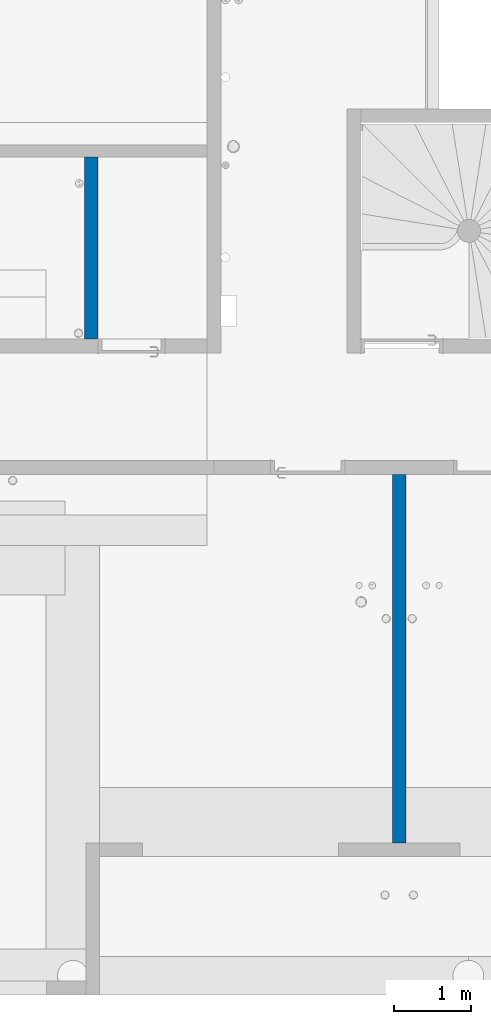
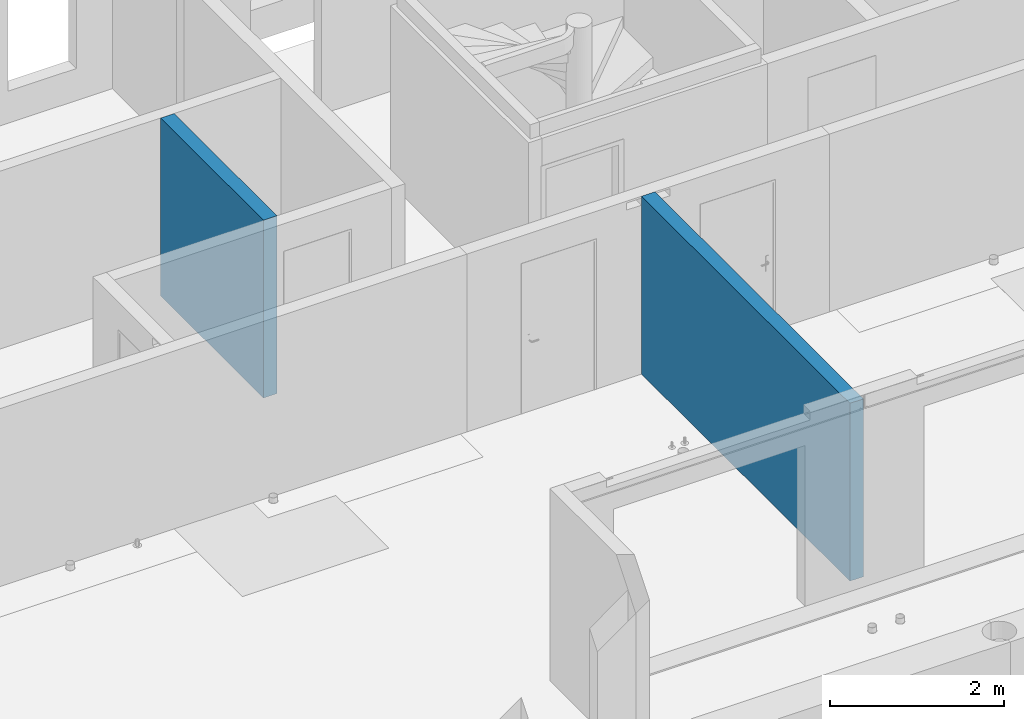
# One storey, part 9 of 34: 2 walls.
"""IFC2X3 building model written with IfcOpenShell, lengths in centimetres."""

import ifcopenshell
import ifcopenshell.guid

model = None  # the IFC model being written
_history = None  # IfcOwnerHistory: only IFC2X3 demands one
_inside = {}  # id of a spatial element -> (the spatial element, [elements in it])
_under = {}  # id of a project, library or spatial element -> (it, [spatial elements below it])
_declared = {}  # id of a project -> (the project, [libraries it declares])
_typed = {}  # id of a type object -> (the type object, [elements of that type])
_made_of = {}  # id of a material, layer set ... -> (it, [elements and type objects made of it])


def new_model(schema):
    """Start an empty IFC model of exactly this schema.

    Asked for "IFC4X3", IfcOpenShell would pick the latest addendum, in which some entities
    have other attributes; the version numbers below select the first issue.
    IFC2X3 requires an IfcOwnerHistory on every rooted entity: one is made here for all.
    """
    global model, _history
    if schema == "IFC4X3":
        model = ifcopenshell.file(schema_version=(4, 3, 0, 0))
    else:
        model = ifcopenshell.file(schema=schema)
    _inside.clear()
    _under.clear()
    _declared.clear()
    _typed.clear()
    _made_of.clear()
    _history = None
    if model.schema == "IFC2X3":
        org = make("IfcOrganization", Name="unknown")
        user = make(
            "IfcPersonAndOrganization",
            ThePerson=make("IfcPerson", FamilyName="unknown"),
            TheOrganization=org,
        )
        app = make(
            "IfcApplication",
            ApplicationDeveloper=org,
            Version="unknown",
            ApplicationFullName="unknown",
            ApplicationIdentifier="unknown",
        )
        _history = make(
            "IfcOwnerHistory",
            OwningUser=user,
            OwningApplication=app,
            ChangeAction="ADDED",
            CreationDate=0,
        )
    return model


def make(cls, **values):
    """One entity of the class cls with the attributes given. An attribute that is None is left unset."""
    return model.create_entity(
        cls, **{name: value for name, value in values.items() if value is not None}
    )


def entity(cls, *values):
    """Any entity or typed value of the class cls, its attributes in the order of the schema. None: left unset."""
    e = model.create_entity(cls)
    for i, value in enumerate(values):
        if value is not None:
            e[i] = value
    return e


def rooted(cls, **values):
    """An entity with a GlobalId (a new one), such as an element, a storey or a relation."""
    return make(cls, GlobalId=ifcopenshell.guid.new(), OwnerHistory=_history, **values)


def si_unit(unit_type, name, prefix=None):
    """IfcSIUnit, for example si_unit("LENGTHUNIT", "METRE", prefix="MILLI")."""
    return make("IfcSIUnit", UnitType=unit_type, Prefix=prefix, Name=name)


def converted_unit(unit_type, name, factor, base, dimensions=None, offset=None):
    """IfcConversionBasedUnit, such as the inch: factor (a typed value) times the base unit."""
    return make(
        "IfcConversionBasedUnit"
        if offset is None
        else "IfcConversionBasedUnitWithOffset",
        ConversionOffset=offset,
        Dimensions=None
        if dimensions is None
        else entity("IfcDimensionalExponents", *dimensions),
        UnitType=unit_type,
        Name=name,
        ConversionFactor=make(
            "IfcMeasureWithUnit", ValueComponent=factor, UnitComponent=base
        ),
    )


def derived_unit(unit_type, elements):
    """IfcDerivedUnit: a product of units, each with its exponent."""
    return make(
        "IfcDerivedUnit",
        Elements=[
            make("IfcDerivedUnitElement", Unit=unit, Exponent=power)
            for unit, power in elements
        ],
        UnitType=unit_type,
    )


def assignment(units):
    """IfcUnitAssignment: the units of a project."""
    return None if units is None else make("IfcUnitAssignment", Units=units)


def point(xyz):
    """IfcCartesianPoint."""
    return None if xyz is None else make("IfcCartesianPoint", Coordinates=xyz)


def direction(xyz):
    """IfcDirection."""
    return None if xyz is None else make("IfcDirection", DirectionRatios=xyz)


def frame(location, z_axis=None, x_axis=None):
    """IfcAxis2Placement3D, a coordinate frame: its origin and axes. An axis left out is left unset."""
    return make(
        "IfcAxis2Placement3D",
        Location=point(location),
        Axis=direction(z_axis),
        RefDirection=direction(x_axis),
    )


def frame_2d(location, x_axis=None):
    """IfcAxis2Placement2D, a coordinate frame in the plane: its origin and x axis."""
    return make(
        "IfcAxis2Placement2D", Location=point(location), RefDirection=direction(x_axis)
    )


def origin():
    """The frame at (0, 0, 0) with its axes left unset."""
    return frame((0.0, 0.0, 0.0))


def place(relative_to, where):
    """IfcLocalPlacement: puts the frame where relative to a parent placement (None: the world)."""
    return make(
        "IfcLocalPlacement", PlacementRelTo=relative_to, RelativePlacement=where
    )


def context(
    kind, dimensions, precision=None, world=None, true_north=None, identifier=None
):
    """IfcGeometricRepresentationContext, for example the 3D "Model" context."""
    return make(
        "IfcGeometricRepresentationContext",
        ContextIdentifier=identifier,
        ContextType=kind,
        CoordinateSpaceDimension=dimensions,
        Precision=precision,
        WorldCoordinateSystem=world,
        TrueNorth=true_north,
    )


def subcontext(parent, identifier, kind, view, scale=None):
    """IfcGeometricRepresentationSubContext, for example "Body" below "Model"."""
    return make(
        "IfcGeometricRepresentationSubContext",
        ContextIdentifier=identifier,
        ContextType=kind,
        ParentContext=parent,
        TargetScale=scale,
        TargetView=view,
    )


def project(units=None, contexts=None):
    """IfcProject with its units and contexts."""
    return rooted(
        "IfcProject",
        Name="project",
        RepresentationContexts=contexts,
        UnitsInContext=assignment(units),
    )


def spatial(cls, under=None, at=None, **own):
    """A site, building, storey or space (cls), placed at a placement, below another one or the project."""
    s = rooted(cls, ObjectPlacement=at, **own)
    if under is not None:
        _under.setdefault(under.id(), (under, []))[1].append(s)
    return s


def profile(cls, at=None, kind="AREA", **sizes):
    """A parametric profile (cls). Its sizes go by their IFC names, for example OverallWidth=200.0."""
    return make(cls, ProfileType=kind, Position=at, **sizes)


def rectangle(**sizes):
    """IfcRectangleProfileDef."""
    return profile("IfcRectangleProfileDef", **sizes)


def extrude(swept, where, along, depth):
    """IfcExtrudedAreaSolid: the profile swept, set in the frame where, extruded along a direction by depth."""
    return make(
        "IfcExtrudedAreaSolid",
        SweptArea=swept,
        Position=where,
        ExtrudedDirection=direction(along),
        Depth=depth,
    )


def shape(context_of_items, identifier, shape_type, items):
    """IfcShapeRepresentation: the items that make up one representation, for example the "Body"."""
    return make(
        "IfcShapeRepresentation",
        ContextOfItems=context_of_items,
        RepresentationIdentifier=identifier,
        RepresentationType=shape_type,
        Items=items,
    )


def material(Name=None, Category=None):
    """IfcMaterial."""
    return make("IfcMaterial", Name=Name, Category=Category)


def layer(
    of_material, thickness, ventilated=None, Name=None, Category=None, Priority=None
):
    """IfcMaterialLayer: one layer of a wall or slab, of a material (None: an air gap)."""
    return make(
        "IfcMaterialLayer",
        Material=of_material,
        LayerThickness=thickness,
        IsVentilated=ventilated,
        Name=Name,
        Category=Category,
        Priority=Priority,
    )


def layer_set(layers, Name=None):
    """IfcMaterialLayerSet."""
    return make("IfcMaterialLayerSet", MaterialLayers=layers, LayerSetName=Name)


def layer_usage(for_layer_set, set_direction, sense, offset, extent=None):
    """IfcMaterialLayerSetUsage: how a layer set lies in its element."""
    return make(
        "IfcMaterialLayerSetUsage",
        ForLayerSet=for_layer_set,
        LayerSetDirection=set_direction,
        DirectionSense=sense,
        OffsetFromReferenceLine=offset,
        ReferenceExtent=extent,
    )


def made_of(thing, what):
    """Note that an element or type object is made of a material, layer set ...; save() writes the relation."""
    if what is not None:
        _made_of.setdefault(what.id(), (what, []))[1].append(thing)
    return thing


def type_object(cls, material=None, **own):
    """A type object (cls), such as IfcWallType, which elements share."""
    return made_of(rooted(cls, **own), material)


def element(
    cls,
    number,
    at=None,
    inside=None,
    cuts=None,
    type_object=None,
    material=None,
    context=None,
    identifier="Body",
    shape_type=None,
    held_by="IfcProductDefinitionShape",
    body=None,
    shapes=None,
    **own,
):
    """One element of the class cls, such as IfcWall. Its Tag is "e" and its number.

    at: its placement. inside: the storey or other place that contains it. cuts: it is an
    opening in that element (IfcRelVoidsElement). A single representation is given by context,
    identifier, shape_type and body (its items); several are given by shapes. held_by: the class
    of the entity that holds the representations. save() writes the other relations.
    """
    e = rooted(cls, Tag="e%d" % number, ObjectPlacement=at, **own)
    if body is not None:
        shapes = [shape(context, identifier, shape_type, body)]
    if shapes is not None:
        e.Representation = make(held_by, Representations=shapes)
    if inside is not None:
        _inside.setdefault(inside.id(), (inside, []))[1].append(e)
    if cuts is not None:
        rooted(
            "IfcRelVoidsElement", RelatingBuildingElement=cuts, RelatedOpeningElement=e
        )
    if type_object is not None:
        _typed.setdefault(type_object.id(), (type_object, []))[1].append(e)
    return made_of(e, material)


def aggregate(whole, parts):
    """IfcRelAggregates: a whole, such as a stair, and the parts it consists of."""
    return rooted("IfcRelAggregates", RelatingObject=whole, RelatedObjects=parts)


def save(model, path):
    """Write the relations noted so far, then the file.

    IfcRelAggregates (storeys below a building ...), IfcRelContainedInSpatialStructure (elements
    in a storey), IfcRelDefinesByType, IfcRelAssociatesMaterial and IfcRelDeclares: one each for
    every whole, place, type object, material and project.
    """
    for whole, parts in _under.values():
        aggregate(whole, parts)
    for where, things in _inside.values():
        rooted(
            "IfcRelContainedInSpatialStructure",
            RelatedElements=things,
            RelatingStructure=where,
        )
    for kind, things in _typed.values():
        rooted("IfcRelDefinesByType", RelatedObjects=things, RelatingType=kind)
    for what, things in _made_of.values():
        rooted("IfcRelAssociatesMaterial", RelatedObjects=things, RelatingMaterial=what)
    for by, libraries in _declared.values():
        rooted("IfcRelDeclares", RelatingContext=by, RelatedDefinitions=libraries)
    model.write(path)


model = new_model("IFC2X3")

# Units and contexts
model_context = context("Model", 3, precision=0.001, world=origin(), true_north=direction((6.12303176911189e-17, 1.0)))
body_context = subcontext(model_context, "Body", "Model", "MODEL_VIEW")
ifc_project = project(units=[si_unit("LENGTHUNIT", "METRE", prefix="CENTI"), si_unit("AREAUNIT", "SQUARE_METRE"), si_unit("VOLUMEUNIT", "CUBIC_METRE"), converted_unit("PLANEANGLEUNIT", "DEGREE", entity("IfcRatioMeasure", 0.0174532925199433), si_unit("PLANEANGLEUNIT", "RADIAN"), dimensions=[0, 0, 0, 0, 0, 0, 0]), si_unit("MASSUNIT", "GRAM", prefix="KILO"), derived_unit("MASSDENSITYUNIT", [(si_unit("MASSUNIT", "GRAM", prefix="KILO"), 1), (si_unit("LENGTHUNIT", "METRE"), -3)]), si_unit("TIMEUNIT", "SECOND"), si_unit("FREQUENCYUNIT", "HERTZ"), si_unit("THERMODYNAMICTEMPERATUREUNIT", "DEGREE_CELSIUS"), derived_unit("THERMALTRANSMITTANCEUNIT", [(si_unit("MASSUNIT", "GRAM", prefix="KILO"), 1), (si_unit("THERMODYNAMICTEMPERATUREUNIT", "KELVIN"), -1), (si_unit("TIMEUNIT", "SECOND"), -3)]), derived_unit("VOLUMETRICFLOWRATEUNIT", [(si_unit("LENGTHUNIT", "METRE"), 3), (si_unit("TIMEUNIT", "SECOND"), -1)]), si_unit("ELECTRICCURRENTUNIT", "AMPERE"), si_unit("ELECTRICVOLTAGEUNIT", "VOLT"), si_unit("POWERUNIT", "WATT"), si_unit("FORCEUNIT", "NEWTON"), si_unit("ILLUMINANCEUNIT", "LUX"), si_unit("LUMINOUSFLUXUNIT", "LUMEN"), si_unit("LUMINOUSINTENSITYUNIT", "CANDELA"), derived_unit("USERDEFINED", [(si_unit("MASSUNIT", "GRAM", prefix="KILO"), -1), (si_unit("LENGTHUNIT", "METRE"), -2), (si_unit("TIMEUNIT", "SECOND"), 3), (si_unit("LUMINOUSFLUXUNIT", "LUMEN"), 1)]), derived_unit("LINEARVELOCITYUNIT", [(si_unit("LENGTHUNIT", "METRE"), 1), (si_unit("TIMEUNIT", "SECOND"), -1)]), si_unit("PRESSUREUNIT", "PASCAL"), derived_unit("USERDEFINED", [(si_unit("LENGTHUNIT", "METRE"), -2), (si_unit("MASSUNIT", "GRAM", prefix="KILO"), 1), (si_unit("TIMEUNIT", "SECOND"), -2)])], contexts=[model_context])

# Site, building, storey
site_placement = place(None, origin())
site = spatial("IfcSite", under=ifc_project, at=site_placement, Name="Default", CompositionType="ELEMENT")
building_placement = place(site_placement, origin())
building = spatial("IfcBuilding", under=site, at=building_placement, Name="CAGE 03", CompositionType="ELEMENT")
storey_placement = place(building_placement, frame((0.0, 0.0, 340.0)))
storey = spatial("IfcBuildingStorey", under=building, at=storey_placement, Name="R+1", CompositionType="ELEMENT", Elevation=340.0)

# Walls
ifc_material = material(Name="Béton, C25/30")
ifc_layer = layer(ifc_material, 18.0)
ifc_layer_set = layer_set([ifc_layer], Name="Mur de base:Voile BA 18")
ifc_layer_usage_1 = layer_usage(ifc_layer_set, "AXIS2", "POSITIVE", -9.0)
wall_type = type_object("IfcWallType", Name="Mur de base:Voile BA 18", PredefinedType="STANDARD", material=ifc_layer_set)
wall_1_placement = place(storey_placement, frame((7081.36582014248, 4474.6606660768, 0.0), z_axis=(0.0, 0.0, 1.0), x_axis=(0.0, -1.0, 0.0)))
element("IfcWallStandardCase", 1, at=wall_1_placement, inside=storey, type_object=wall_type, material=ifc_layer_usage_1, Name="Mur de base:Voile BA 18", ObjectType="Mur de base:Voile BA 18", context=body_context, shape_type="SweptSolid", body=[
    extrude(rectangle(XDim=480.000000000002, YDim=17.9999999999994, at=frame_2d((240.000000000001, 0.0), x_axis=(-1.0, 0.0))), origin(), (0.0, 0.0, 1.0), 250.0),
])
ifc_layer_usage_2 = layer_usage(ifc_layer_set, "AXIS2", "POSITIVE", -9.0)
wall_2_placement = place(storey_placement, frame((6680.36582014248, 4650.6606660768, 0.0), z_axis=(0.0, 0.0, 1.0), x_axis=(0.0, 1.0, 0.0)))
element("IfcWallStandardCase", 2, at=wall_2_placement, inside=storey, type_object=wall_type, material=ifc_layer_usage_2, Name="Mur de base:Voile BA 18", ObjectType="Mur de base:Voile BA 18", context=body_context, shape_type="SweptSolid", body=[
    extrude(rectangle(XDim=237.000000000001, YDim=17.9999999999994, at=frame_2d((118.5, 2.16715534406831e-13), x_axis=(-1.0, 0.0))), origin(), (0.0, 0.0, 1.0), 250.0),
])

save(model, "model.ifc")
